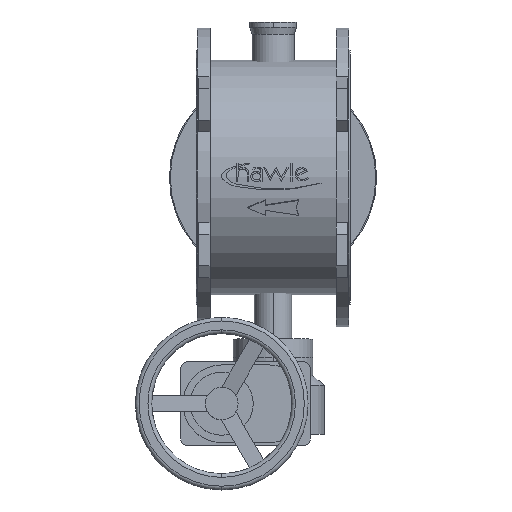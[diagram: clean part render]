
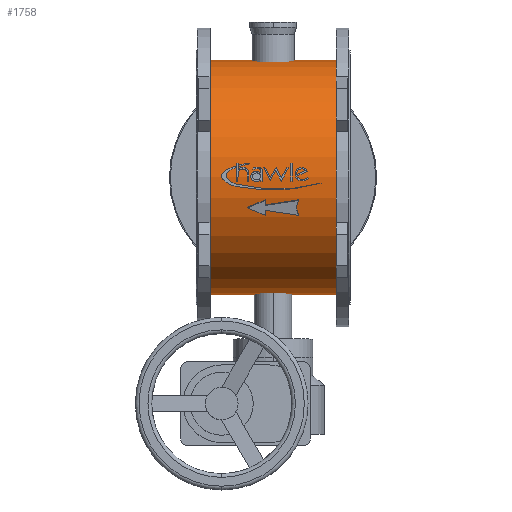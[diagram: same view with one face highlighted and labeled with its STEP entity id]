
A CAD part, top view. The second image highlights one B-rep face of the part: STEP entity #1758.
In plain terms, the highlighted cylindrical face has radius 251 mm (diameter 502 mm), a partial arc.
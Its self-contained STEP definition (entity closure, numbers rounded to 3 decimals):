
#1758=ADVANCED_FACE('',(#3383),#3384,.T.);
#3383=FACE_OUTER_BOUND('',#5213,.T.);
#3384=CYLINDRICAL_SURFACE('',#5214,251.0);
#5213=EDGE_LOOP('',(#8590,#8591,#8592,#8593));
#5214=AXIS2_PLACEMENT_3D('',#8594,#8595,#8596);
#8590=ORIENTED_EDGE('',*,*,#10970,.T.);
#8591=ORIENTED_EDGE('',*,*,#10777,.T.);
#8592=ORIENTED_EDGE('',*,*,#10971,.T.);
#8593=ORIENTED_EDGE('',*,*,#10972,.T.);
#8594=CARTESIAN_POINT('',(-300.0,0.,0.0));
#8595=DIRECTION('',(1.0,0.,0.0));
#8596=DIRECTION('',(0.,-1.0,0.0));
#10777=EDGE_CURVE('',#12998,#12999,#13000,.T.);
#10970=EDGE_CURVE('',#13225,#12998,#13226,.T.);
#10971=EDGE_CURVE('',#12999,#13227,#13228,.T.);
#10972=EDGE_CURVE('',#13227,#13225,#13229,.T.);
#12998=VERTEX_POINT('',#15746);
#12999=VERTEX_POINT('',#15747);
#13000=CIRCLE('',#15748,251.0);
#13225=VERTEX_POINT('',#16023);
#13226=LINE('',#16024,#16025);
#13227=VERTEX_POINT('',#16026);
#13228=LINE('',#16027,#16028);
#13229=CIRCLE('',#16029,251.0);
#15746=CARTESIAN_POINT('',(-30.0,-251.0,0.0));
#15747=CARTESIAN_POINT('',(-30.0,251.0,0.));
#15748=AXIS2_PLACEMENT_3D('',#17917,#17918,#17919);
#16023=CARTESIAN_POINT('',(-300.0,-251.0,0.0));
#16024=CARTESIAN_POINT('',(-300.0,-251.0,0.));
#16025=VECTOR('',#18168,1.0);
#16026=CARTESIAN_POINT('',(-300.0,251.0,0.));
#16027=CARTESIAN_POINT('',(-300.0,251.0,0.));
#16028=VECTOR('',#18169,1.0);
#16029=AXIS2_PLACEMENT_3D('',#18170,#18171,#18172);
#17917=CARTESIAN_POINT('',(-30.0,0.,0.0));
#17918=DIRECTION('',(-1.0,0.,0.0));
#17919=DIRECTION('',(0.,-1.0,0.0));
#18168=DIRECTION('',(1.0,0.,0.0));
#18169=DIRECTION('',(-1.0,0.,-0.0));
#18170=CARTESIAN_POINT('',(-300.0,0.,0.0));
#18171=DIRECTION('',(1.0,0.,0.0));
#18172=DIRECTION('',(0.,-1.0,0.0));
